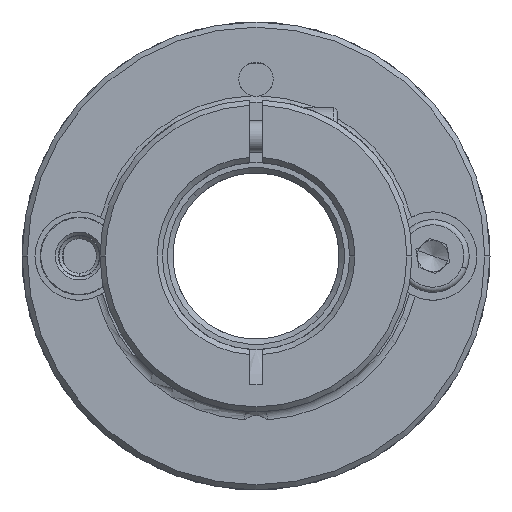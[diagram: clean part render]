
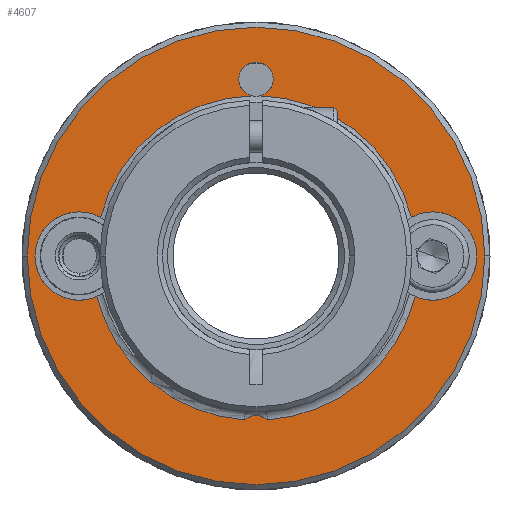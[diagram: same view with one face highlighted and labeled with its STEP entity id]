
A CAD part, front view. The second image highlights one B-rep face of the part: STEP entity #4607.
In plain terms, the highlighted planar face has unit normal (0, -1, 0).
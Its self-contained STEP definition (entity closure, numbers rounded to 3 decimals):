
#20 = CARTESIAN_POINT ( 'NONE',  ( -9.653, -8.743, 62. ) ) ;
#225 = VERTEX_POINT ( 'NONE', #852 ) ;
#241 = DIRECTION ( 'NONE',  ( 0., 1., 0. ) ) ;
#252 = CARTESIAN_POINT ( 'NONE',  ( 5.291, -8.743, 48.72 ) ) ;
#461 = VERTEX_POINT ( 'NONE', #252 ) ;
#766 = DIRECTION ( 'NONE',  ( 0., 1., 0. ) ) ;
#852 = CARTESIAN_POINT ( 'NONE',  ( -24.964, -8.743, 41.1 ) ) ;
#870 = ORIENTED_EDGE ( 'NONE', *, *, #8370, .T. ) ;
#921 = EDGE_CURVE ( 'NONE', #225, #2143, #13235, .T. ) ;
#985 = DIRECTION ( 'NONE',  ( 1., 0., 0. ) ) ;
#1366 = CIRCLE ( 'NONE', #2253, 15.4 ) ;
#1387 = DIRECTION ( 'NONE',  ( 1., 0., 0. ) ) ;
#1470 = VERTEX_POINT ( 'NONE', #10698 ) ;
#1985 = EDGE_LOOP ( 'NONE', ( #8014, #3924, #2629, #2808, #12061, #11714, #14440, #9556, #10012, #4108, #8905, #9528 ) ) ;
#2143 = VERTEX_POINT ( 'NONE', #8749 ) ;
#2253 = AXIS2_PLACEMENT_3D ( 'NONE', #11509, #10333, #985 ) ;
#2327 = CIRCLE ( 'NONE', #5864, 4.25 ) ;
#2568 = DIRECTION ( 'NONE',  ( 1., 0., 0. ) ) ;
#2609 = AXIS2_PLACEMENT_3D ( 'NONE', #11307, #9071, #3032 ) ;
#2620 = EDGE_CURVE ( 'NONE', #12828, #461, #1366, .T. ) ;
#2629 = ORIENTED_EDGE ( 'NONE', *, *, #921, .T. ) ;
#2669 = AXIS2_PLACEMENT_3D ( 'NONE', #12506, #5588, #11134 ) ;
#2808 = ORIENTED_EDGE ( 'NONE', *, *, #14288, .T. ) ;
#2921 = DIRECTION ( 'NONE',  ( 0., 0., -1. ) ) ;
#2976 = FACE_BOUND ( 'NONE', #1985, .T. ) ;
#3019 = EDGE_CURVE ( 'NONE', #1470, #12828, #6117, .T. ) ;
#3032 = DIRECTION ( 'NONE',  ( 1., 0., 0. ) ) ;
#3177 = CARTESIAN_POINT ( 'NONE',  ( -10.037, -8.743, 60.395 ) ) ;
#3281 = CIRCLE ( 'NONE', #4162, 22. ) ;
#3607 = EDGE_CURVE ( 'NONE', #6263, #8752, #8492, .T. ) ;
#3924 = ORIENTED_EDGE ( 'NONE', *, *, #13980, .T. ) ;
#3925 = VERTEX_POINT ( 'NONE', #5993 ) ;
#4108 = ORIENTED_EDGE ( 'NONE', *, *, #8301, .T. ) ;
#4137 = AXIS2_PLACEMENT_3D ( 'NONE', #20, #4509, #12708 ) ;
#4162 = AXIS2_PLACEMENT_3D ( 'NONE', #10794, #9527, #2568 ) ;
#4328 = EDGE_CURVE ( 'NONE', #3925, #1470, #13533, .T. ) ;
#4467 = CARTESIAN_POINT ( 'NONE',  ( 7.347, -8.743, 45. ) ) ;
#4509 = DIRECTION ( 'NONE',  ( 0., 1., 0. ) ) ;
#4533 = CARTESIAN_POINT ( 'NONE',  ( -10.744, -8.743, 29.238 ) ) ;
#4607 = ADVANCED_FACE ( 'NONE', ( #2976, #12069 ), #9688, .T. ) ;
#4696 = AXIS2_PLACEMENT_3D ( 'NONE', #10421, #12778, #8459 ) ;
#4701 = CARTESIAN_POINT ( 'NONE',  ( -31.653, -8.743, 45. ) ) ;
#4814 = DIRECTION ( 'NONE',  ( 1., 0., 0. ) ) ;
#4973 = AXIS2_PLACEMENT_3D ( 'NONE', #12940, #241, #1387 ) ;
#4991 = DIRECTION ( 'NONE',  ( 0., 1., 0. ) ) ;
#5060 = DIRECTION ( 'NONE',  ( -0.802, 0., 0.597 ) ) ;
#5096 = CIRCLE ( 'NONE', #8759, 1.65 ) ;
#5251 = EDGE_LOOP ( 'NONE', ( #870, #12334 ) ) ;
#5574 = EDGE_CURVE ( 'NONE', #13095, #9351, #14031, .T. ) ;
#5587 = CARTESIAN_POINT ( 'NONE',  ( -9.653, -8.743, 62. ) ) ;
#5588 = DIRECTION ( 'NONE',  ( 0., 1., 0. ) ) ;
#5593 = CIRCLE ( 'NONE', #8460, 15.8 ) ;
#5648 = CIRCLE ( 'NONE', #7298, 4.25 ) ;
#5678 = CARTESIAN_POINT ( 'NONE',  ( -9.653, -8.743, 45. ) ) ;
#5864 = AXIS2_PLACEMENT_3D ( 'NONE', #14994, #12747, #8098 ) ;
#5993 = CARTESIAN_POINT ( 'NONE',  ( -11.303, -8.743, 62. ) ) ;
#6014 = CARTESIAN_POINT ( 'NONE',  ( -9.653, -8.743, 45. ) ) ;
#6117 = CIRCLE ( 'NONE', #2669, 1.65 ) ;
#6263 = VERTEX_POINT ( 'NONE', #13804 ) ;
#7046 = AXIS2_PLACEMENT_3D ( 'NONE', #10815, #9740, #5060 ) ;
#7240 = CARTESIAN_POINT ( 'NONE',  ( 5.658, -8.743, 41.1 ) ) ;
#7298 = AXIS2_PLACEMENT_3D ( 'NONE', #4467, #7915, #14873 ) ;
#7361 = VERTEX_POINT ( 'NONE', #4701 ) ;
#7463 = CARTESIAN_POINT ( 'NONE',  ( -8.562, -8.743, 29.238 ) ) ;
#7748 = CARTESIAN_POINT ( 'NONE',  ( 11.597, -8.743, 45. ) ) ;
#7894 = DIRECTION ( 'NONE',  ( 0., 1., 0. ) ) ;
#7915 = DIRECTION ( 'NONE',  ( 0., 1., 0. ) ) ;
#8014 = ORIENTED_EDGE ( 'NONE', *, *, #5574, .T. ) ;
#8098 = DIRECTION ( 'NONE',  ( 1., 0., 0. ) ) ;
#8103 = DIRECTION ( 'NONE',  ( 1., 0., 0. ) ) ;
#8301 = EDGE_CURVE ( 'NONE', #461, #14139, #5648, .T. ) ;
#8370 = EDGE_CURVE ( 'NONE', #7361, #11842, #10657, .T. ) ;
#8430 = DIRECTION ( 'NONE',  ( 1., 0., 0. ) ) ;
#8459 = DIRECTION ( 'NONE',  ( 1., 0., 0. ) ) ;
#8460 = AXIS2_PLACEMENT_3D ( 'NONE', #5678, #7894, #8103 ) ;
#8492 = CIRCLE ( 'NONE', #13570, 15.4 ) ;
#8749 = CARTESIAN_POINT ( 'NONE',  ( -30.903, -8.743, 45. ) ) ;
#8752 = VERTEX_POINT ( 'NONE', #3177 ) ;
#8759 = AXIS2_PLACEMENT_3D ( 'NONE', #5587, #766, #14825 ) ;
#8905 = ORIENTED_EDGE ( 'NONE', *, *, #13875, .T. ) ;
#9071 = DIRECTION ( 'NONE',  ( 0., 1., 0. ) ) ;
#9192 = CARTESIAN_POINT ( 'NONE',  ( 12.347, -8.743, 45. ) ) ;
#9351 = VERTEX_POINT ( 'NONE', #4533 ) ;
#9527 = DIRECTION ( 'NONE',  ( 0., -1., 0. ) ) ;
#9528 = ORIENTED_EDGE ( 'NONE', *, *, #9602, .T. ) ;
#9556 = ORIENTED_EDGE ( 'NONE', *, *, #3019, .T. ) ;
#9602 = EDGE_CURVE ( 'NONE', #14965, #13095, #5593, .T. ) ;
#9688 = PLANE ( 'NONE',  #7046 ) ;
#9740 = DIRECTION ( 'NONE',  ( 0., -1., 0. ) ) ;
#10012 = ORIENTED_EDGE ( 'NONE', *, *, #2620, .T. ) ;
#10150 = CIRCLE ( 'NONE', #4973, 15.8 ) ;
#10295 = CARTESIAN_POINT ( 'NONE',  ( -9.27, -8.743, 60.395 ) ) ;
#10333 = DIRECTION ( 'NONE',  ( 0., 1., 0. ) ) ;
#10421 = CARTESIAN_POINT ( 'NONE',  ( -9.653, -8.743, 45. ) ) ;
#10567 = DIRECTION ( 'NONE',  ( 0., 1., 0. ) ) ;
#10657 = CIRCLE ( 'NONE', #4696, 22. ) ;
#10698 = CARTESIAN_POINT ( 'NONE',  ( -8.003, -8.743, 62. ) ) ;
#10794 = CARTESIAN_POINT ( 'NONE',  ( -9.653, -8.743, 45. ) ) ;
#10815 = CARTESIAN_POINT ( 'NONE',  ( -9.653, -8.743, 28. ) ) ;
#11134 = DIRECTION ( 'NONE',  ( 1., 0., 0. ) ) ;
#11307 = CARTESIAN_POINT ( 'NONE',  ( 7.347, -8.743, 45. ) ) ;
#11436 = CIRCLE ( 'NONE', #2609, 4.25 ) ;
#11509 = CARTESIAN_POINT ( 'NONE',  ( -9.653, -8.743, 45. ) ) ;
#11714 = ORIENTED_EDGE ( 'NONE', *, *, #14130, .T. ) ;
#11750 = CARTESIAN_POINT ( 'NONE',  ( -26.653, -8.743, 45. ) ) ;
#11842 = VERTEX_POINT ( 'NONE', #9192 ) ;
#12012 = CARTESIAN_POINT ( 'NONE',  ( -9.653, -8.743, 28. ) ) ;
#12061 = ORIENTED_EDGE ( 'NONE', *, *, #3607, .T. ) ;
#12069 = FACE_OUTER_BOUND ( 'NONE', #5251, .T. ) ;
#12146 = AXIS2_PLACEMENT_3D ( 'NONE', #11750, #10567, #4814 ) ;
#12334 = ORIENTED_EDGE ( 'NONE', *, *, #13012, .T. ) ;
#12506 = CARTESIAN_POINT ( 'NONE',  ( -9.653, -8.743, 62. ) ) ;
#12708 = DIRECTION ( 'NONE',  ( 1., 0., 0. ) ) ;
#12747 = DIRECTION ( 'NONE',  ( 0., 1., 0. ) ) ;
#12778 = DIRECTION ( 'NONE',  ( 0., -1., 0. ) ) ;
#12828 = VERTEX_POINT ( 'NONE', #10295 ) ;
#12940 = CARTESIAN_POINT ( 'NONE',  ( -9.653, -8.743, 45. ) ) ;
#13012 = EDGE_CURVE ( 'NONE', #11842, #7361, #3281, .T. ) ;
#13095 = VERTEX_POINT ( 'NONE', #7463 ) ;
#13235 = CIRCLE ( 'NONE', #12146, 4.25 ) ;
#13318 = AXIS2_PLACEMENT_3D ( 'NONE', #12012, #13342, #2921 ) ;
#13342 = DIRECTION ( 'NONE',  ( 0., -1., 0. ) ) ;
#13533 = CIRCLE ( 'NONE', #4137, 1.65 ) ;
#13570 = AXIS2_PLACEMENT_3D ( 'NONE', #6014, #4991, #8430 ) ;
#13804 = CARTESIAN_POINT ( 'NONE',  ( -24.597, -8.743, 48.72 ) ) ;
#13875 = EDGE_CURVE ( 'NONE', #14139, #14965, #11436, .T. ) ;
#13980 = EDGE_CURVE ( 'NONE', #9351, #225, #10150, .T. ) ;
#14031 = CIRCLE ( 'NONE', #13318, 1.65 ) ;
#14130 = EDGE_CURVE ( 'NONE', #8752, #3925, #5096, .T. ) ;
#14139 = VERTEX_POINT ( 'NONE', #7748 ) ;
#14288 = EDGE_CURVE ( 'NONE', #2143, #6263, #2327, .T. ) ;
#14440 = ORIENTED_EDGE ( 'NONE', *, *, #4328, .T. ) ;
#14825 = DIRECTION ( 'NONE',  ( 1., 0., 0. ) ) ;
#14873 = DIRECTION ( 'NONE',  ( 1., 0., 0. ) ) ;
#14965 = VERTEX_POINT ( 'NONE', #7240 ) ;
#14994 = CARTESIAN_POINT ( 'NONE',  ( -26.653, -8.743, 45. ) ) ;
